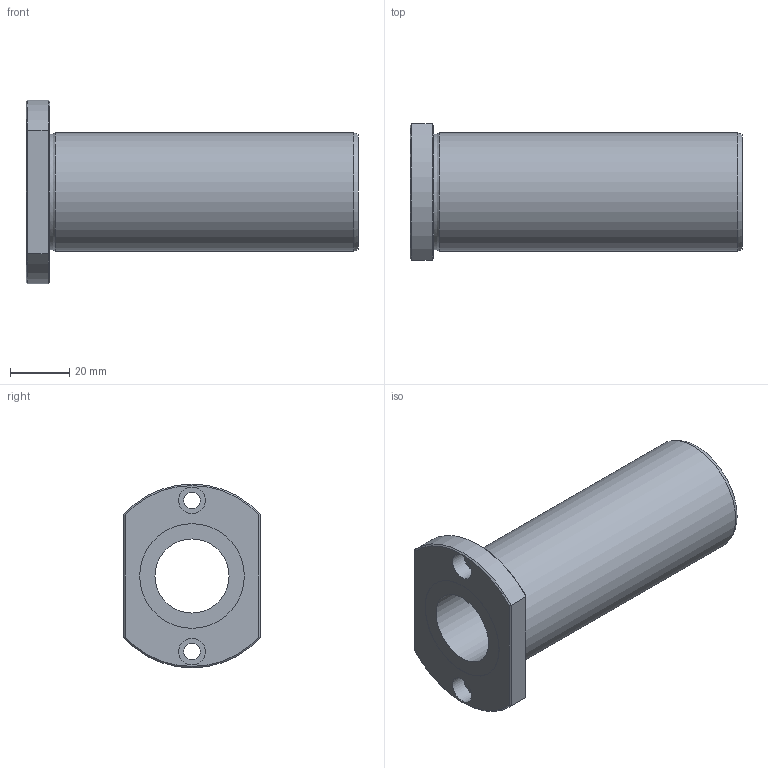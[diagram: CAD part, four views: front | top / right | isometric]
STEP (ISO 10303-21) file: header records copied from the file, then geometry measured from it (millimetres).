
FILE_DESCRIPTION((''),'2;1');
FILE_NAME('D:\製品 (図面)\カタログ用3D\リニアベアリング関連\STEP形式\LFDT\LFDT25.stp','2010-06-03T09:46:10',('Tsuchiya'),(''),'Autodesk Inventor 10','Autodesk Inventor 10','');
FILE_SCHEMA(('AUTOMOTIVE_DESIGN { 1 0 10303 214 1 1 1 1 }'));
Length unit declared in the file: millimetre
Products named in the file (1): LFDT25
Bounding box: 112 x 46 x 62 mm (x, y, z)
Volume: 95123.3 mm3; surface area: 27691.6 mm2
Topology: 1 solids, 1 shells, 29 faces, 56 edges, 34 vertices
Faces by surface type: plane 13, cylinder 10, cone 4, torus 1, bspline 1
Full cylindrical faces by diameter (mm): 5.5 x2, 9 x2, 25 x1, 35.3 x2, 40 x1
Entity records: 787 total; most frequent: CARTESIAN_POINT 196, DIRECTION 122, ORIENTED_EDGE 92, AXIS2_PLACEMENT_3D 55, EDGE_LOOP 50, EDGE_CURVE 46, VERTEX_POINT 34, FACE_OUTER_BOUND 29
